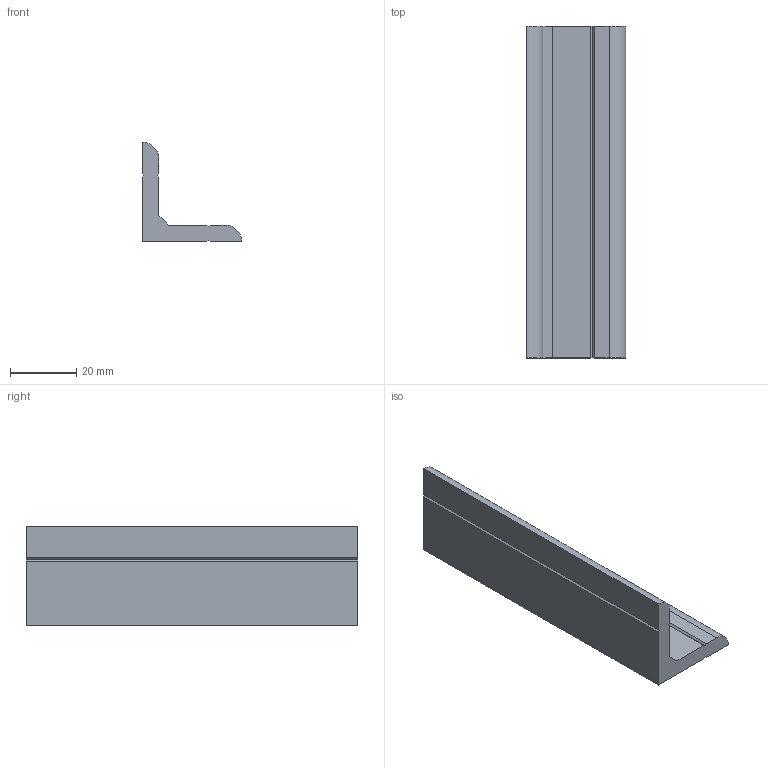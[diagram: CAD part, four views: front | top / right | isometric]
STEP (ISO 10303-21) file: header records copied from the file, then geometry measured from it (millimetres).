
FILE_DESCRIPTION(/* description */ ('Unknown'),/* implementation_level */ '2;1');
FILE_NAME(/* name */ 'NML3090',/* time_stamp */ '2026-09-02T13:03:05+08:00',/* author */ ('Unknown'),/* organization */ ('Unknown'),/* preprocessor_version */ 'ST-DEVELOPER v16.7',/* originating_system */ 'DEX',/* authorisation */ $);
FILE_SCHEMA (('AUTOMOTIVE_DESIGN {1 0 10303 214 3 1 1}'));
Length unit declared in the file: millimetre
Products named in the file (1): NML3090
Bounding box: 30 x 100 x 30 mm (x, y, z)
Volume: 26776.1 mm3; surface area: 12087.7 mm2
Topology: 1 solids, 1 shells, 22 faces, 60 edges, 40 vertices
Faces by surface type: plane 19, cylinder 3
Entity records: 868 total; most frequent: CARTESIAN_POINT 123, ORIENTED_EDGE 120, DIRECTION 112, EDGE_CURVE 60, LINE 54, VECTOR 54, VERTEX_POINT 40, AXIS2_PLACEMENT_3D 29
